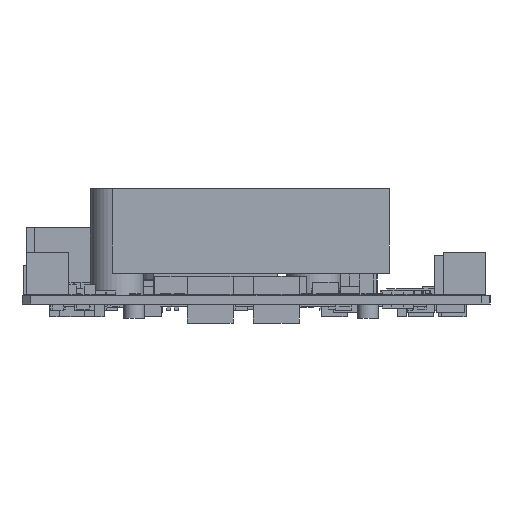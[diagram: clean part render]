
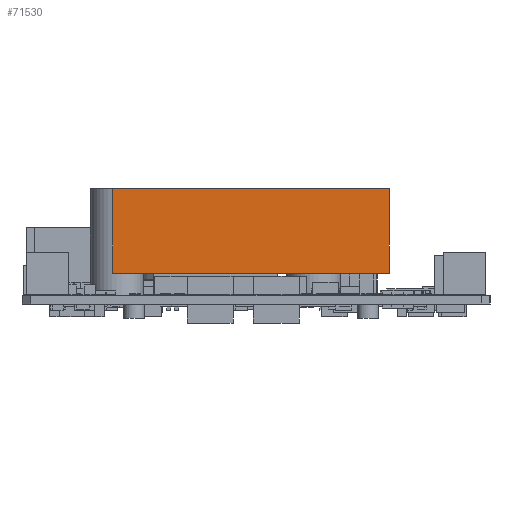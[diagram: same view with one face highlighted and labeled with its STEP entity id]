
A CAD part, left-side view. The second image highlights one B-rep face of the part: STEP entity #71530.
In plain terms, the highlighted planar face has unit normal (-1, 0, 0).
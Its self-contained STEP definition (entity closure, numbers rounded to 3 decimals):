
#71115 = EDGE_CURVE('',#71116,#71118,#71120,.T.);
#71116 = VERTEX_POINT('',#71117);
#71117 = CARTESIAN_POINT('',(-55.,32.5,0.));
#71118 = VERTEX_POINT('',#71119);
#71119 = CARTESIAN_POINT('',(-55.,32.5,19.8));
#71120 = SURFACE_CURVE('',#71121,(#71125,#71137),.PCURVE_S1.);
#71121 = LINE('',#71122,#71123);
#71122 = CARTESIAN_POINT('',(-55.,32.5,0.));
#71123 = VECTOR('',#71124,1.);
#71124 = DIRECTION('',(0.,0.,1.));
#71125 = PCURVE('',#71126,#71131);
#71126 = PLANE('',#71127);
#71127 = AXIS2_PLACEMENT_3D('',#71128,#71129,#71130);
#71128 = CARTESIAN_POINT('',(-55.,32.5,0.));
#71129 = DIRECTION('',(0.,1.,0.));
#71130 = DIRECTION('',(1.,0.,0.));
#71131 = DEFINITIONAL_REPRESENTATION('',(#71132),#71136);
#71132 = LINE('',#71133,#71134);
#71133 = CARTESIAN_POINT('',(0.,0.));
#71134 = VECTOR('',#71135,1.);
#71135 = DIRECTION('',(0.,-1.));
#71136 = ( GEOMETRIC_REPRESENTATION_CONTEXT(2) 
PARAMETRIC_REPRESENTATION_CONTEXT() REPRESENTATION_CONTEXT('2D SPACE',''
  ) );
#71137 = PCURVE('',#71138,#71143);
#71138 = PLANE('',#71139);
#71139 = AXIS2_PLACEMENT_3D('',#71140,#71141,#71142);
#71140 = CARTESIAN_POINT('',(-55.,-32.5,0.));
#71141 = DIRECTION('',(-1.,0.,0.));
#71142 = DIRECTION('',(0.,1.,0.));
#71143 = DEFINITIONAL_REPRESENTATION('',(#71144),#71148);
#71144 = LINE('',#71145,#71146);
#71145 = CARTESIAN_POINT('',(65.,0.));
#71146 = VECTOR('',#71147,1.);
#71147 = DIRECTION('',(0.,-1.));
#71148 = ( GEOMETRIC_REPRESENTATION_CONTEXT(2) 
PARAMETRIC_REPRESENTATION_CONTEXT() REPRESENTATION_CONTEXT('2D SPACE',''
  ) );
#71166 = PLANE('',#71167);
#71167 = AXIS2_PLACEMENT_3D('',#71168,#71169,#71170);
#71168 = CARTESIAN_POINT('',(-55.,32.5,19.8));
#71169 = DIRECTION('',(0.,0.,1.));
#71170 = DIRECTION('',(1.,0.,0.));
#71220 = PLANE('',#71221);
#71221 = AXIS2_PLACEMENT_3D('',#71222,#71223,#71224);
#71222 = CARTESIAN_POINT('',(-55.,32.5,0.));
#71223 = DIRECTION('',(0.,0.,1.));
#71224 = DIRECTION('',(1.,0.,0.));
#71427 = PLANE('',#71428);
#71428 = AXIS2_PLACEMENT_3D('',#71429,#71430,#71431);
#71429 = CARTESIAN_POINT('',(54.907,-32.5,0.));
#71430 = DIRECTION('',(0.,-1.,0.));
#71431 = DIRECTION('',(-1.,0.,0.));
#71465 = VERTEX_POINT('',#71466);
#71466 = CARTESIAN_POINT('',(-55.,-32.5,19.8));
#71487 = EDGE_CURVE('',#71488,#71465,#71490,.T.);
#71488 = VERTEX_POINT('',#71489);
#71489 = CARTESIAN_POINT('',(-55.,-32.5,0.));
#71490 = SURFACE_CURVE('',#71491,(#71495,#71502),.PCURVE_S1.);
#71491 = LINE('',#71492,#71493);
#71492 = CARTESIAN_POINT('',(-55.,-32.5,0.));
#71493 = VECTOR('',#71494,1.);
#71494 = DIRECTION('',(0.,0.,1.));
#71495 = PCURVE('',#71427,#71496);
#71496 = DEFINITIONAL_REPRESENTATION('',(#71497),#71501);
#71497 = LINE('',#71498,#71499);
#71498 = CARTESIAN_POINT('',(109.907,0.));
#71499 = VECTOR('',#71500,1.);
#71500 = DIRECTION('',(0.,-1.));
#71501 = ( GEOMETRIC_REPRESENTATION_CONTEXT(2) 
PARAMETRIC_REPRESENTATION_CONTEXT() REPRESENTATION_CONTEXT('2D SPACE',''
  ) );
#71502 = PCURVE('',#71138,#71503);
#71503 = DEFINITIONAL_REPRESENTATION('',(#71504),#71508);
#71504 = LINE('',#71505,#71506);
#71505 = CARTESIAN_POINT('',(0.,0.));
#71506 = VECTOR('',#71507,1.);
#71507 = DIRECTION('',(0.,-1.));
#71508 = ( GEOMETRIC_REPRESENTATION_CONTEXT(2) 
PARAMETRIC_REPRESENTATION_CONTEXT() REPRESENTATION_CONTEXT('2D SPACE',''
  ) );
#71530 = ADVANCED_FACE('',(#71531),#71138,.T.);
#71531 = FACE_BOUND('',#71532,.T.);
#71532 = EDGE_LOOP('',(#71533,#71534,#71555,#71556));
#71533 = ORIENTED_EDGE('',*,*,#71487,.T.);
#71534 = ORIENTED_EDGE('',*,*,#71535,.T.);
#71535 = EDGE_CURVE('',#71465,#71118,#71536,.T.);
#71536 = SURFACE_CURVE('',#71537,(#71541,#71548),.PCURVE_S1.);
#71537 = LINE('',#71538,#71539);
#71538 = CARTESIAN_POINT('',(-55.,-32.5,19.8));
#71539 = VECTOR('',#71540,1.);
#71540 = DIRECTION('',(0.,1.,0.));
#71541 = PCURVE('',#71138,#71542);
#71542 = DEFINITIONAL_REPRESENTATION('',(#71543),#71547);
#71543 = LINE('',#71544,#71545);
#71544 = CARTESIAN_POINT('',(0.,-19.8));
#71545 = VECTOR('',#71546,1.);
#71546 = DIRECTION('',(1.,0.));
#71547 = ( GEOMETRIC_REPRESENTATION_CONTEXT(2) 
PARAMETRIC_REPRESENTATION_CONTEXT() REPRESENTATION_CONTEXT('2D SPACE',''
  ) );
#71548 = PCURVE('',#71166,#71549);
#71549 = DEFINITIONAL_REPRESENTATION('',(#71550),#71554);
#71550 = LINE('',#71551,#71552);
#71551 = CARTESIAN_POINT('',(0.,-65.));
#71552 = VECTOR('',#71553,1.);
#71553 = DIRECTION('',(0.,1.));
#71554 = ( GEOMETRIC_REPRESENTATION_CONTEXT(2) 
PARAMETRIC_REPRESENTATION_CONTEXT() REPRESENTATION_CONTEXT('2D SPACE',''
  ) );
#71555 = ORIENTED_EDGE('',*,*,#71115,.F.);
#71556 = ORIENTED_EDGE('',*,*,#71557,.F.);
#71557 = EDGE_CURVE('',#71488,#71116,#71558,.T.);
#71558 = SURFACE_CURVE('',#71559,(#71563,#71570),.PCURVE_S1.);
#71559 = LINE('',#71560,#71561);
#71560 = CARTESIAN_POINT('',(-55.,-32.5,0.));
#71561 = VECTOR('',#71562,1.);
#71562 = DIRECTION('',(0.,1.,0.));
#71563 = PCURVE('',#71138,#71564);
#71564 = DEFINITIONAL_REPRESENTATION('',(#71565),#71569);
#71565 = LINE('',#71566,#71567);
#71566 = CARTESIAN_POINT('',(0.,0.));
#71567 = VECTOR('',#71568,1.);
#71568 = DIRECTION('',(1.,0.));
#71569 = ( GEOMETRIC_REPRESENTATION_CONTEXT(2) 
PARAMETRIC_REPRESENTATION_CONTEXT() REPRESENTATION_CONTEXT('2D SPACE',''
  ) );
#71570 = PCURVE('',#71220,#71571);
#71571 = DEFINITIONAL_REPRESENTATION('',(#71572),#71576);
#71572 = LINE('',#71573,#71574);
#71573 = CARTESIAN_POINT('',(0.,-65.));
#71574 = VECTOR('',#71575,1.);
#71575 = DIRECTION('',(0.,1.));
#71576 = ( GEOMETRIC_REPRESENTATION_CONTEXT(2) 
PARAMETRIC_REPRESENTATION_CONTEXT() REPRESENTATION_CONTEXT('2D SPACE',''
  ) );
